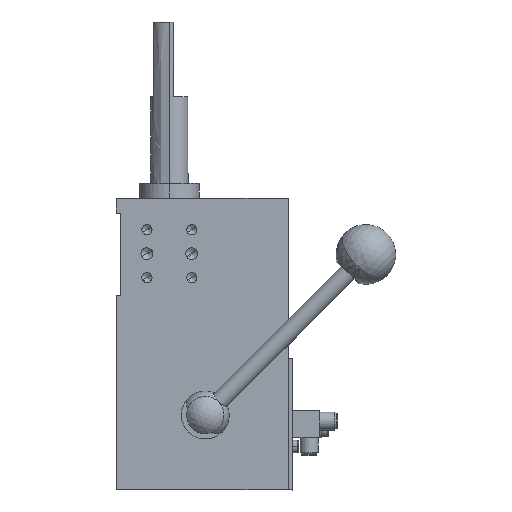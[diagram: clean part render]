
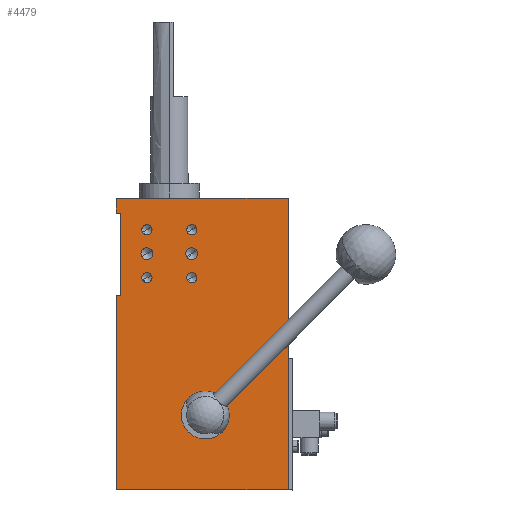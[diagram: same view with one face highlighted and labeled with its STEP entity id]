
A CAD part, top view. The second image highlights one B-rep face of the part: STEP entity #4479.
In plain terms, the highlighted planar face has unit normal (0, 0, 1).
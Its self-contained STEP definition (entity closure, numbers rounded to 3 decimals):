
#1312=CARTESIAN_POINT('Vertex',(31.,-145.,22.5)) ;
#1319=CARTESIAN_POINT('Vertex',(17.,-145.,22.5)) ;
#1322=CARTESIAN_POINT('Axis2P3D Location',(24.,-145.,22.5)) ;
#1334=CARTESIAN_POINT('Axis2P3D Location',(24.,-145.,22.5)) ;
#2351=CARTESIAN_POINT('Line Origine',(79.5,-151.,22.5)) ;
#2355=CARTESIAN_POINT('Vertex',(79.5,-107.,22.5)) ;
#2357=CARTESIAN_POINT('Vertex',(79.5,-195.,22.5)) ;
#3357=CARTESIAN_POINT('Vertex',(79.5,0.,22.5)) ;
#3360=CARTESIAN_POINT('Line Origine',(79.5,-53.5,22.5)) ;
#3417=CARTESIAN_POINT('Vertex',(-35.5,0.,22.5)) ;
#3420=CARTESIAN_POINT('Line Origine',(22.,0.,22.5)) ;
#3629=CARTESIAN_POINT('Vertex',(-35.5,-10.,22.5)) ;
#3632=CARTESIAN_POINT('Line Origine',(-35.5,-5.,22.5)) ;
#3702=CARTESIAN_POINT('Vertex',(-32.5,-10.,22.5)) ;
#3705=CARTESIAN_POINT('Line Origine',(-34.,-10.,22.5)) ;
#3772=CARTESIAN_POINT('Vertex',(-32.5,-65.,22.5)) ;
#3775=CARTESIAN_POINT('Line Origine',(-32.5,-37.5,22.5)) ;
#3970=CARTESIAN_POINT('Vertex',(-35.5,-65.,22.5)) ;
#3973=CARTESIAN_POINT('Line Origine',(-34.,-65.,22.5)) ;
#4339=CARTESIAN_POINT('Axis2P3D Location',(-35.5,-195.,22.5)) ;
#4344=CARTESIAN_POINT('Line Origine',(-35.5,-130.,22.5)) ;
#4348=CARTESIAN_POINT('Vertex',(-35.5,-195.,22.5)) ;
#4351=CARTESIAN_POINT('Line Origine',(22.,-195.,22.5)) ;
#4371=CARTESIAN_POINT('Axis2P3D Location',(-15.,-21.,22.5)) ;
#4375=CARTESIAN_POINT('Vertex',(-15.,-17.6,22.5)) ;
#4377=CARTESIAN_POINT('Vertex',(-15.,-24.4,22.5)) ;
#4380=CARTESIAN_POINT('Axis2P3D Location',(-15.,-21.,22.5)) ;
#4389=CARTESIAN_POINT('Axis2P3D Location',(-15.,-53.,22.5)) ;
#4393=CARTESIAN_POINT('Vertex',(-15.,-49.6,22.5)) ;
#4395=CARTESIAN_POINT('Vertex',(-15.,-56.4,22.5)) ;
#4398=CARTESIAN_POINT('Axis2P3D Location',(-15.,-53.,22.5)) ;
#4407=CARTESIAN_POINT('Axis2P3D Location',(-15.,-37.,22.5)) ;
#4411=CARTESIAN_POINT('Vertex',(-15.,-33.,22.5)) ;
#4413=CARTESIAN_POINT('Vertex',(-15.,-41.,22.5)) ;
#4416=CARTESIAN_POINT('Axis2P3D Location',(-15.,-37.,22.5)) ;
#4425=CARTESIAN_POINT('Axis2P3D Location',(15.,-21.,22.5)) ;
#4429=CARTESIAN_POINT('Vertex',(15.,-17.6,22.5)) ;
#4431=CARTESIAN_POINT('Vertex',(15.,-24.4,22.5)) ;
#4434=CARTESIAN_POINT('Axis2P3D Location',(15.,-21.,22.5)) ;
#4443=CARTESIAN_POINT('Axis2P3D Location',(15.,-53.,22.5)) ;
#4447=CARTESIAN_POINT('Vertex',(15.,-49.6,22.5)) ;
#4449=CARTESIAN_POINT('Vertex',(15.,-56.4,22.5)) ;
#4452=CARTESIAN_POINT('Axis2P3D Location',(15.,-53.,22.5)) ;
#4461=CARTESIAN_POINT('Axis2P3D Location',(15.,-37.,22.5)) ;
#4465=CARTESIAN_POINT('Vertex',(15.,-33.,22.5)) ;
#4467=CARTESIAN_POINT('Vertex',(15.,-41.,22.5)) ;
#4470=CARTESIAN_POINT('Axis2P3D Location',(15.,-37.,22.5)) ;
#1323=DIRECTION('Axis2P3D Direction',(0.,0.,-1.)) ;
#1335=DIRECTION('Axis2P3D Direction',(0.,0.,-1.)) ;
#2352=DIRECTION('Vector Direction',(0.,1.,0.)) ;
#3361=DIRECTION('Vector Direction',(0.,1.,0.)) ;
#3421=DIRECTION('Vector Direction',(1.,0.,0.)) ;
#3633=DIRECTION('Vector Direction',(0.,1.,0.)) ;
#3706=DIRECTION('Vector Direction',(1.,0.,0.)) ;
#3776=DIRECTION('Vector Direction',(0.,1.,0.)) ;
#3974=DIRECTION('Vector Direction',(1.,0.,0.)) ;
#4340=DIRECTION('Axis2P3D Direction',(0.,0.,-1.)) ;
#4341=DIRECTION('Axis2P3D XDirection',(0.,1.,0.)) ;
#4345=DIRECTION('Vector Direction',(0.,1.,0.)) ;
#4352=DIRECTION('Vector Direction',(1.,0.,0.)) ;
#4372=DIRECTION('Axis2P3D Direction',(0.,0.,-1.)) ;
#4381=DIRECTION('Axis2P3D Direction',(0.,0.,-1.)) ;
#4390=DIRECTION('Axis2P3D Direction',(0.,0.,-1.)) ;
#4399=DIRECTION('Axis2P3D Direction',(0.,0.,-1.)) ;
#4408=DIRECTION('Axis2P3D Direction',(0.,0.,-1.)) ;
#4417=DIRECTION('Axis2P3D Direction',(0.,0.,-1.)) ;
#4426=DIRECTION('Axis2P3D Direction',(0.,0.,-1.)) ;
#4435=DIRECTION('Axis2P3D Direction',(0.,0.,-1.)) ;
#4444=DIRECTION('Axis2P3D Direction',(0.,0.,-1.)) ;
#4453=DIRECTION('Axis2P3D Direction',(0.,0.,-1.)) ;
#4462=DIRECTION('Axis2P3D Direction',(0.,0.,-1.)) ;
#4471=DIRECTION('Axis2P3D Direction',(0.,0.,-1.)) ;
#1324=AXIS2_PLACEMENT_3D('Circle Axis2P3D',#1322,#1323,$) ;
#1336=AXIS2_PLACEMENT_3D('Circle Axis2P3D',#1334,#1335,$) ;
#4342=AXIS2_PLACEMENT_3D('Plane Axis2P3D',#4339,#4340,#4341) ;
#4373=AXIS2_PLACEMENT_3D('Circle Axis2P3D',#4371,#4372,$) ;
#4382=AXIS2_PLACEMENT_3D('Circle Axis2P3D',#4380,#4381,$) ;
#4391=AXIS2_PLACEMENT_3D('Circle Axis2P3D',#4389,#4390,$) ;
#4400=AXIS2_PLACEMENT_3D('Circle Axis2P3D',#4398,#4399,$) ;
#4409=AXIS2_PLACEMENT_3D('Circle Axis2P3D',#4407,#4408,$) ;
#4418=AXIS2_PLACEMENT_3D('Circle Axis2P3D',#4416,#4417,$) ;
#4427=AXIS2_PLACEMENT_3D('Circle Axis2P3D',#4425,#4426,$) ;
#4436=AXIS2_PLACEMENT_3D('Circle Axis2P3D',#4434,#4435,$) ;
#4445=AXIS2_PLACEMENT_3D('Circle Axis2P3D',#4443,#4444,$) ;
#4454=AXIS2_PLACEMENT_3D('Circle Axis2P3D',#4452,#4453,$) ;
#4463=AXIS2_PLACEMENT_3D('Circle Axis2P3D',#4461,#4462,$) ;
#4472=AXIS2_PLACEMENT_3D('Circle Axis2P3D',#4470,#4471,$) ;
#4357=ORIENTED_EDGE('',*,*,#3709,.T.) ;
#4358=ORIENTED_EDGE('',*,*,#3779,.T.) ;
#4359=ORIENTED_EDGE('',*,*,#3977,.F.) ;
#4360=ORIENTED_EDGE('',*,*,#4350,.T.) ;
#4361=ORIENTED_EDGE('',*,*,#4355,.T.) ;
#4362=ORIENTED_EDGE('',*,*,#2359,.F.) ;
#4363=ORIENTED_EDGE('',*,*,#3364,.F.) ;
#4364=ORIENTED_EDGE('',*,*,#3424,.F.) ;
#4365=ORIENTED_EDGE('',*,*,#3636,.T.) ;
#4368=ORIENTED_EDGE('',*,*,#1338,.T.) ;
#4369=ORIENTED_EDGE('',*,*,#1326,.T.) ;
#4386=ORIENTED_EDGE('',*,*,#4379,.F.) ;
#4387=ORIENTED_EDGE('',*,*,#4384,.F.) ;
#4404=ORIENTED_EDGE('',*,*,#4397,.F.) ;
#4405=ORIENTED_EDGE('',*,*,#4402,.F.) ;
#4422=ORIENTED_EDGE('',*,*,#4415,.F.) ;
#4423=ORIENTED_EDGE('',*,*,#4420,.F.) ;
#4440=ORIENTED_EDGE('',*,*,#4433,.F.) ;
#4441=ORIENTED_EDGE('',*,*,#4438,.F.) ;
#4458=ORIENTED_EDGE('',*,*,#4451,.F.) ;
#4459=ORIENTED_EDGE('',*,*,#4456,.F.) ;
#4476=ORIENTED_EDGE('',*,*,#4469,.F.) ;
#4477=ORIENTED_EDGE('',*,*,#4474,.F.) ;
#4370=FACE_BOUND('',#4367,.T.) ;
#4388=FACE_BOUND('',#4385,.T.) ;
#4406=FACE_BOUND('',#4403,.T.) ;
#4424=FACE_BOUND('',#4421,.T.) ;
#4442=FACE_BOUND('',#4439,.T.) ;
#4460=FACE_BOUND('',#4457,.T.) ;
#4478=FACE_BOUND('',#4475,.T.) ;
#2353=VECTOR('Line Direction',#2352,1.) ;
#3362=VECTOR('Line Direction',#3361,1.) ;
#3422=VECTOR('Line Direction',#3421,1.) ;
#3634=VECTOR('Line Direction',#3633,1.) ;
#3707=VECTOR('Line Direction',#3706,1.) ;
#3777=VECTOR('Line Direction',#3776,1.) ;
#3975=VECTOR('Line Direction',#3974,1.) ;
#4346=VECTOR('Line Direction',#4345,1.) ;
#4353=VECTOR('Line Direction',#4352,1.) ;
#4479=ADVANCED_FACE('PartBody',(#4366,#4370,#4388,#4406,#4424,#4442,#4460,#4478),#4343,.F.) ;
#1325=CIRCLE('generated circle',#1324,7.) ;
#1337=CIRCLE('generated circle',#1336,7.) ;
#4374=CIRCLE('generated circle',#4373,3.4) ;
#4383=CIRCLE('generated circle',#4382,3.4) ;
#4392=CIRCLE('generated circle',#4391,3.4) ;
#4401=CIRCLE('generated circle',#4400,3.4) ;
#4410=CIRCLE('generated circle',#4409,4.) ;
#4419=CIRCLE('generated circle',#4418,4.) ;
#4428=CIRCLE('generated circle',#4427,3.4) ;
#4437=CIRCLE('generated circle',#4436,3.4) ;
#4446=CIRCLE('generated circle',#4445,3.4) ;
#4455=CIRCLE('generated circle',#4454,3.4) ;
#4464=CIRCLE('generated circle',#4463,4.) ;
#4473=CIRCLE('generated circle',#4472,4.) ;
#1326=EDGE_CURVE('',#1313,#1320,#1325,.T.) ;
#1338=EDGE_CURVE('',#1320,#1313,#1337,.T.) ;
#2359=EDGE_CURVE('',#2356,#2358,#2354,.F.) ;
#3364=EDGE_CURVE('',#3358,#2356,#3363,.F.) ;
#3424=EDGE_CURVE('',#3418,#3358,#3423,.T.) ;
#3636=EDGE_CURVE('',#3418,#3630,#3635,.F.) ;
#3709=EDGE_CURVE('',#3630,#3703,#3708,.T.) ;
#3779=EDGE_CURVE('',#3703,#3773,#3778,.F.) ;
#3977=EDGE_CURVE('',#3971,#3773,#3976,.T.) ;
#4350=EDGE_CURVE('',#3971,#4349,#4347,.F.) ;
#4355=EDGE_CURVE('',#4349,#2358,#4354,.T.) ;
#4379=EDGE_CURVE('',#4376,#4378,#4374,.F.) ;
#4384=EDGE_CURVE('',#4378,#4376,#4383,.F.) ;
#4397=EDGE_CURVE('',#4394,#4396,#4392,.F.) ;
#4402=EDGE_CURVE('',#4396,#4394,#4401,.F.) ;
#4415=EDGE_CURVE('',#4412,#4414,#4410,.F.) ;
#4420=EDGE_CURVE('',#4414,#4412,#4419,.F.) ;
#4433=EDGE_CURVE('',#4430,#4432,#4428,.F.) ;
#4438=EDGE_CURVE('',#4432,#4430,#4437,.F.) ;
#4451=EDGE_CURVE('',#4448,#4450,#4446,.F.) ;
#4456=EDGE_CURVE('',#4450,#4448,#4455,.F.) ;
#4469=EDGE_CURVE('',#4466,#4468,#4464,.F.) ;
#4474=EDGE_CURVE('',#4468,#4466,#4473,.F.) ;
#4356=EDGE_LOOP('',(#4357,#4358,#4359,#4360,#4361,#4362,#4363,#4364,#4365)) ;
#4367=EDGE_LOOP('',(#4368,#4369)) ;
#4385=EDGE_LOOP('',(#4386,#4387)) ;
#4403=EDGE_LOOP('',(#4404,#4405)) ;
#4421=EDGE_LOOP('',(#4422,#4423)) ;
#4439=EDGE_LOOP('',(#4440,#4441)) ;
#4457=EDGE_LOOP('',(#4458,#4459)) ;
#4475=EDGE_LOOP('',(#4476,#4477)) ;
#4366=FACE_OUTER_BOUND('',#4356,.T.) ;
#2354=LINE('Line',#2351,#2353) ;
#3363=LINE('Line',#3360,#3362) ;
#3423=LINE('Line',#3420,#3422) ;
#3635=LINE('Line',#3632,#3634) ;
#3708=LINE('Line',#3705,#3707) ;
#3778=LINE('Line',#3775,#3777) ;
#3976=LINE('Line',#3973,#3975) ;
#4347=LINE('Line',#4344,#4346) ;
#4354=LINE('Line',#4351,#4353) ;
#4343=PLANE('Plane',#4342) ;
#1313=VERTEX_POINT('',#1312) ;
#1320=VERTEX_POINT('',#1319) ;
#2356=VERTEX_POINT('',#2355) ;
#2358=VERTEX_POINT('',#2357) ;
#3358=VERTEX_POINT('',#3357) ;
#3418=VERTEX_POINT('',#3417) ;
#3630=VERTEX_POINT('',#3629) ;
#3703=VERTEX_POINT('',#3702) ;
#3773=VERTEX_POINT('',#3772) ;
#3971=VERTEX_POINT('',#3970) ;
#4349=VERTEX_POINT('',#4348) ;
#4376=VERTEX_POINT('',#4375) ;
#4378=VERTEX_POINT('',#4377) ;
#4394=VERTEX_POINT('',#4393) ;
#4396=VERTEX_POINT('',#4395) ;
#4412=VERTEX_POINT('',#4411) ;
#4414=VERTEX_POINT('',#4413) ;
#4430=VERTEX_POINT('',#4429) ;
#4432=VERTEX_POINT('',#4431) ;
#4448=VERTEX_POINT('',#4447) ;
#4450=VERTEX_POINT('',#4449) ;
#4466=VERTEX_POINT('',#4465) ;
#4468=VERTEX_POINT('',#4467) ;
